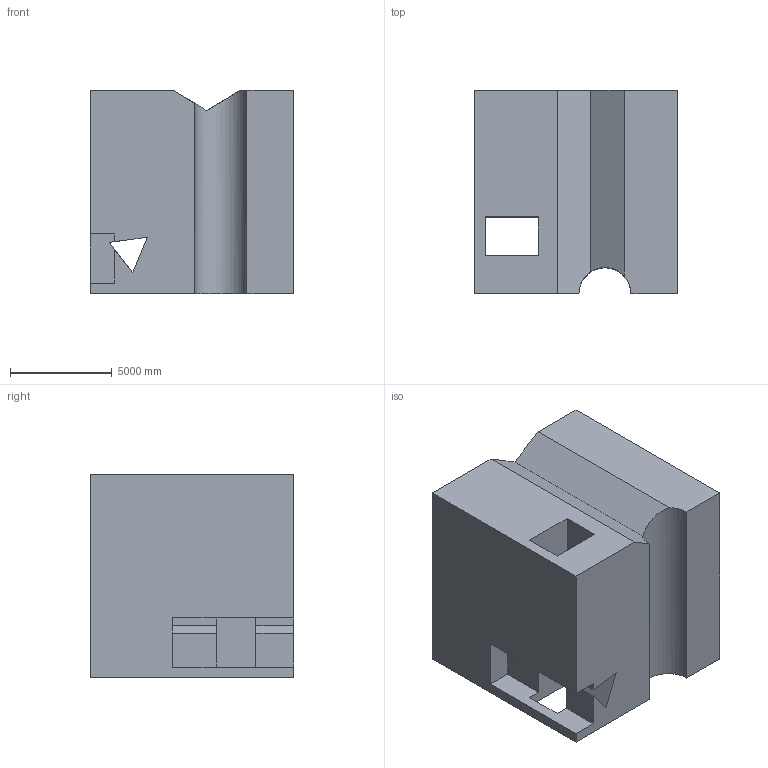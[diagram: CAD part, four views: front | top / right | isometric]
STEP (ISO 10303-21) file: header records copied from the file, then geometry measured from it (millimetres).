
FILE_DESCRIPTION (( 'STEP AP203' ), '1' );
FILE_NAME ('1436.STEP', '2022-08-18T14:27:49', ( 'user' ), ( '' ), 'SwSTEP 2.0', 'SolidWorks 2021', '' );
FILE_SCHEMA (( 'CONFIG_CONTROL_DESIGN' ));
Length unit declared in the file: centimetre
Products named in the file (1): 1436
Bounding box: 10000 x 10000 x 10000 mm (x, y, z)
Volume: 882991311596.7 mm3; surface area: 726163039.5 mm2
Topology: 1 solids, 1 shells, 29 faces, 90 edges, 60 vertices
Faces by surface type: plane 28, cylinder 1
Entity records: 1075 total; most frequent: CARTESIAN_POINT 186, ORIENTED_EDGE 180, DIRECTION 150, EDGE_CURVE 90, LINE 86, VECTOR 86, VERTEX_POINT 60, EDGE_LOOP 32
